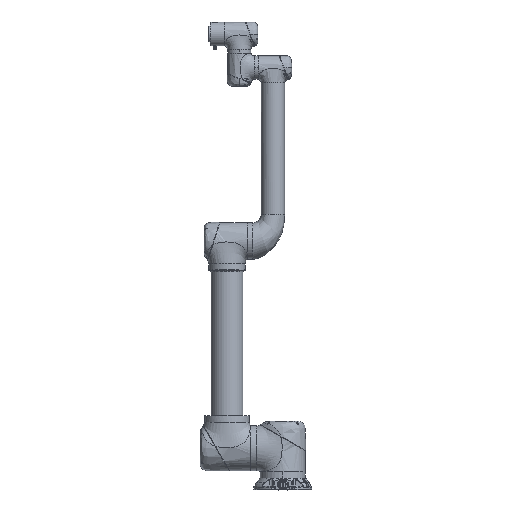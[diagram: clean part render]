
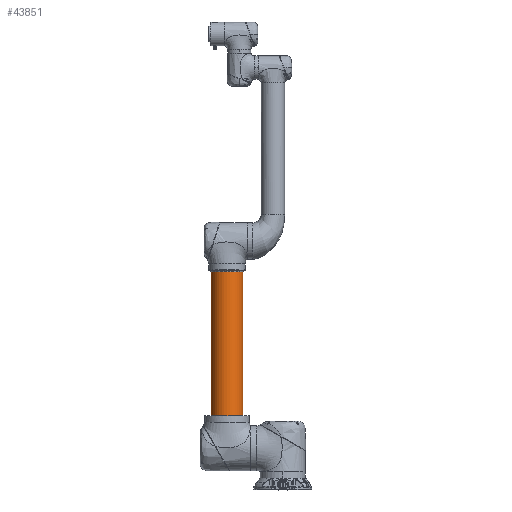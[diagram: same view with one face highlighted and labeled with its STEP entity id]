
A CAD part, top view. The second image highlights one B-rep face of the part: STEP entity #43851.
In plain terms, the highlighted cylindrical face has radius 65 mm (diameter 130 mm), a partial arc.
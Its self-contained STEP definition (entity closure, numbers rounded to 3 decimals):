
#6547 = DIRECTION ( 'NONE',  ( 0., 0., 1. ) ) ;
#23195 = EDGE_CURVE ( 'NONE', #216148, #230962, #270114, .T. ) ;
#43851 = ADVANCED_FACE ( 'NONE', ( #373120 ), #70808, .T. ) ;
#55158 = CARTESIAN_POINT ( 'NONE',  ( 65., 0., -21. ) ) ;
#65300 = CARTESIAN_POINT ( 'NONE',  ( 0., 0., -21. ) ) ;
#66233 = CARTESIAN_POINT ( 'NONE',  ( 0., 0., -612.25 ) ) ;
#68955 = VECTOR ( 'NONE', #412217, 1000. ) ;
#70808 = CYLINDRICAL_SURFACE ( 'NONE', #289994, 65. ) ;
#83362 = VERTEX_POINT ( 'NONE', #266500 ) ;
#85456 = AXIS2_PLACEMENT_3D ( 'NONE', #66233, #6547, #410249 ) ;
#104197 = CARTESIAN_POINT ( 'NONE',  ( -65., 0., -21. ) ) ;
#112226 = ORIENTED_EDGE ( 'NONE', *, *, #196553, .T. ) ;
#114976 = CARTESIAN_POINT ( 'NONE',  ( 0., 0., 274.343 ) ) ;
#146638 = ORIENTED_EDGE ( 'NONE', *, *, #411981, .F. ) ;
#196553 = EDGE_CURVE ( 'NONE', #230962, #198760, #277676, .T. ) ;
#198760 = VERTEX_POINT ( 'NONE', #221071 ) ;
#211028 = EDGE_CURVE ( 'NONE', #198760, #83362, #416833, .T. ) ;
#212147 = DIRECTION ( 'NONE',  ( 0., 0., -1. ) ) ;
#216148 = VERTEX_POINT ( 'NONE', #55158 ) ;
#220630 = AXIS2_PLACEMENT_3D ( 'NONE', #65300, #228631, #299219 ) ;
#221071 = CARTESIAN_POINT ( 'NONE',  ( -65., 0., -612.25 ) ) ;
#228631 = DIRECTION ( 'NONE',  ( 0., 0., -1. ) ) ;
#230962 = VERTEX_POINT ( 'NONE', #104197 ) ;
#266500 = CARTESIAN_POINT ( 'NONE',  ( 65., 0., -612.25 ) ) ;
#270114 = CIRCLE ( 'NONE', #220630, 65. ) ;
#271029 = ORIENTED_EDGE ( 'NONE', *, *, #211028, .T. ) ;
#277676 = LINE ( 'NONE', #348282, #68955 ) ;
#289994 = AXIS2_PLACEMENT_3D ( 'NONE', #114976, #212147, #415124 ) ;
#299219 = DIRECTION ( 'NONE',  ( -1., 0., 0. ) ) ;
#310124 = DIRECTION ( 'NONE',  ( 0., 0., -1. ) ) ;
#332141 = VECTOR ( 'NONE', #310124, 1000. ) ;
#348282 = CARTESIAN_POINT ( 'NONE',  ( -65., 0., 274.343 ) ) ;
#351580 = EDGE_LOOP ( 'NONE', ( #146638, #355264, #112226, #271029 ) ) ;
#355264 = ORIENTED_EDGE ( 'NONE', *, *, #23195, .T. ) ;
#373120 = FACE_OUTER_BOUND ( 'NONE', #351580, .T. ) ;
#404983 = CARTESIAN_POINT ( 'NONE',  ( 65., 0., 274.343 ) ) ;
#410249 = DIRECTION ( 'NONE',  ( -1., 0., 0. ) ) ;
#411981 = EDGE_CURVE ( 'NONE', #216148, #83362, #435944, .T. ) ;
#412217 = DIRECTION ( 'NONE',  ( 0., 0., -1. ) ) ;
#415124 = DIRECTION ( 'NONE',  ( -1., 0., 0. ) ) ;
#416833 = CIRCLE ( 'NONE', #85456, 65. ) ;
#435944 = LINE ( 'NONE', #404983, #332141 ) ;
